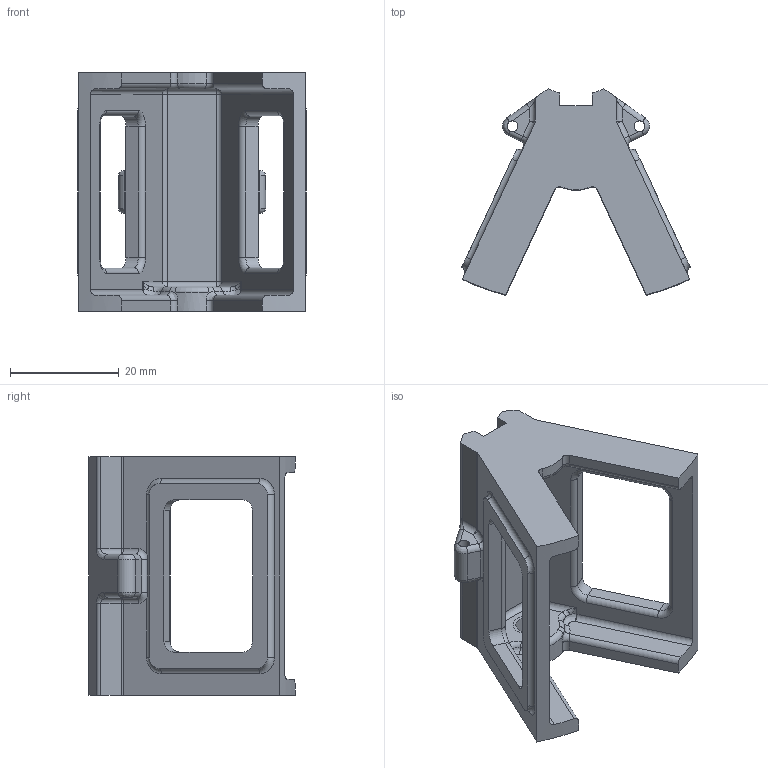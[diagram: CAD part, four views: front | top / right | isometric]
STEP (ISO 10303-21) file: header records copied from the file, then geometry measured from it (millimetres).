
FILE_DESCRIPTION((''),'2;1');
FILE_NAME('VENTILRAHMEN','2022-06-13T16:05:07',('H041970'),(''),'CREO PARAMETRIC BY PTC INC, 2021284','CREO PARAMETRIC BY PTC INC, 2021284','');
FILE_SCHEMA(('CONFIG_CONTROL_DESIGN'));
Length unit declared in the file: millimetre
Products named in the file (1): VENTILRAHMEN
Bounding box: 42.09 x 37.96 x 44 mm (x, y, z)
Volume: 11781.9 mm3; surface area: 8612 mm2
Topology: 1 solids, 2 shells, 188 faces, 492 edges, 316 vertices
Faces by surface type: cylinder 88, plane 40, torus 30, bspline 20, sphere 10
Entity records: 7271 total; most frequent: CARTESIAN_POINT 2618, DIRECTION 1016, ORIENTED_EDGE 952, EDGE_CURVE 478, AXIS2_PLACEMENT_3D 402, VERTEX_POINT 288, CIRCLE 232, VECTOR 212
